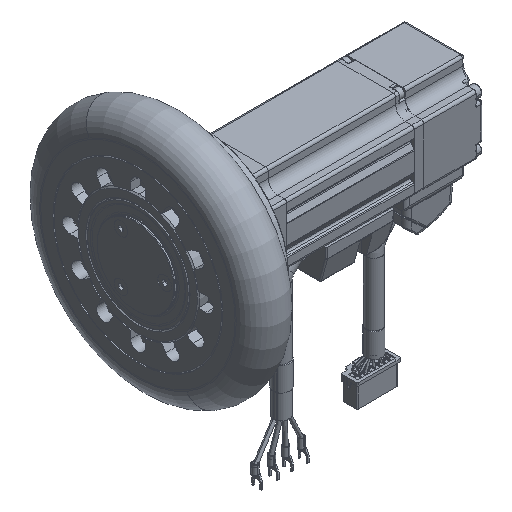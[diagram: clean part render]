
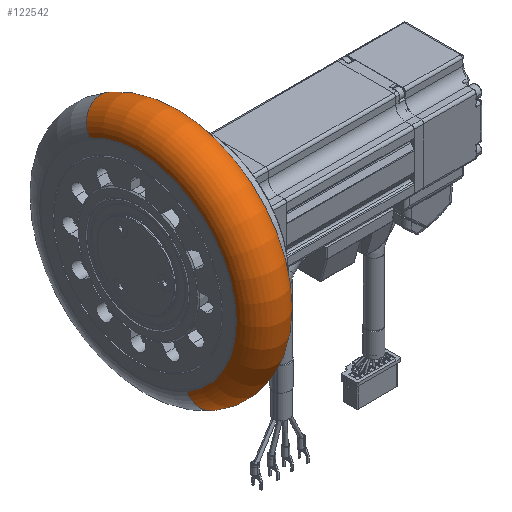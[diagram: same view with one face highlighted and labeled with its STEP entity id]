
A CAD part, isometric view. The second image highlights one B-rep face of the part: STEP entity #122542.
In plain terms, the highlighted toroidal (fillet/blend) face has major radius 40.5 mm and minor radius 9.5 mm.
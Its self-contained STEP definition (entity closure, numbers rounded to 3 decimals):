
#122328=CARTESIAN_POINT('',(0.,9.5,0.));
#122329=DIRECTION('',(0.,-1.,0.));
#122330=DIRECTION('',(1.,0.,0.));
#122331=AXIS2_PLACEMENT_3D('',#122328,#122329,#122330);
#122338=CARTESIAN_POINT('',(40.5,0.,0.));
#122339=DIRECTION('',(0.,0.,1.));
#122340=DIRECTION('',(0.,-1.,0.));
#122341=AXIS2_PLACEMENT_3D('',#122338,#122339,#122340);
#122343=CARTESIAN_POINT('',(0.,-9.5,0.));
#122344=DIRECTION('',(0.,-1.,0.));
#122345=DIRECTION('',(1.,0.,0.));
#122346=AXIS2_PLACEMENT_3D('',#122343,#122344,#122345);
#122348=CARTESIAN_POINT('',(-40.5,0.,0.));
#122349=DIRECTION('',(0.,0.,-1.));
#122350=DIRECTION('',(0.,-1.,0.));
#122351=AXIS2_PLACEMENT_3D('',#122348,#122349,#122350);
#122437=CARTESIAN_POINT('',(40.5,-9.5,0.));
#122438=CARTESIAN_POINT('',(40.5,9.5,0.));
#122439=VERTEX_POINT('',#122437);
#122440=VERTEX_POINT('',#122438);
#122445=CARTESIAN_POINT('',(-40.5,-9.5,0.));
#122446=CARTESIAN_POINT('',(-40.5,9.5,0.));
#122447=VERTEX_POINT('',#122445);
#122448=VERTEX_POINT('',#122446);
#122530=CARTESIAN_POINT('',(0.,0.,0.));
#122531=DIRECTION('',(0.,1.,0.));
#122532=DIRECTION('',(1.,0.,0.));
#122533=AXIS2_PLACEMENT_3D('',#122530,#122531,#122532);
#122534=TOROIDAL_SURFACE('',#122533,40.5,9.5);
#122535=ORIENTED_EDGE('',*,*,#122520,.F.);
#122537=ORIENTED_EDGE('',*,*,#122536,.T.);
#122538=ORIENTED_EDGE('',*,*,#122523,.T.);
#122539=ORIENTED_EDGE('',*,*,#122506,.F.);
#122540=EDGE_LOOP('',(#122535,#122537,#122538,#122539));
#122541=FACE_OUTER_BOUND('',#122540,.F.);
#122542=ADVANCED_FACE('',(#122541),#122534,.T.);
#122332=CIRCLE('',#122331,40.5);
#122342=CIRCLE('',#122341,9.5);
#122347=CIRCLE('',#122346,40.5);
#122352=CIRCLE('',#122351,9.5);
#122506=EDGE_CURVE('',#122440,#122448,#122332,.T.);
#122520=EDGE_CURVE('',#122439,#122440,#122342,.T.);
#122523=EDGE_CURVE('',#122447,#122448,#122352,.T.);
#122536=EDGE_CURVE('',#122439,#122447,#122347,.T.);
